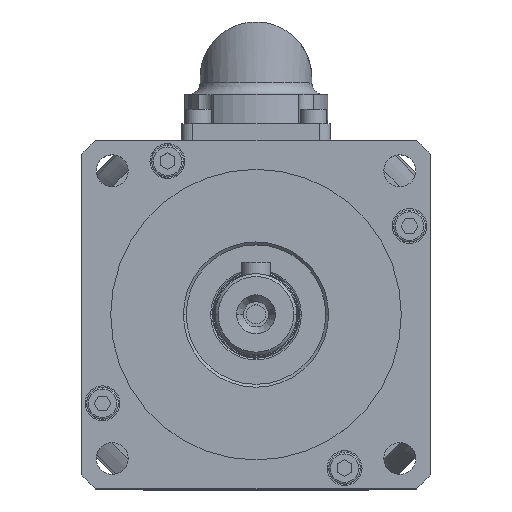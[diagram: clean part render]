
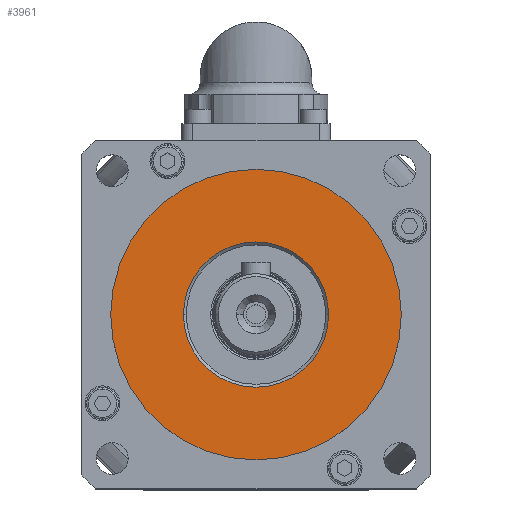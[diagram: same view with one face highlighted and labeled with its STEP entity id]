
A CAD part, top view. The second image highlights one B-rep face of the part: STEP entity #3961.
In plain terms, the highlighted planar face has unit normal (0, 0, 1).
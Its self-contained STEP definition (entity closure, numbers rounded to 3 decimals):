
#247 = CARTESIAN_POINT ( 'NONE',  ( -25., 0., 9.5 ) ) ;
#1337 = DIRECTION ( 'NONE',  ( 0., 0., 1. ) ) ;
#1347 = DIRECTION ( 'NONE',  ( 0., 0., 1. ) ) ;
#1377 = DIRECTION ( 'NONE',  ( 1., 0., 0. ) ) ;
#1399 = CARTESIAN_POINT ( 'NONE',  ( 0., 0., 9.5 ) ) ;
#1409 = DIRECTION ( 'NONE',  ( 1., 0., 0. ) ) ;
#1411 = CARTESIAN_POINT ( 'NONE',  ( 0., 0., 9.5 ) ) ;
#1434 = CARTESIAN_POINT ( 'NONE',  ( 0., 0., 9.5 ) ) ;
#1438 = DIRECTION ( 'NONE',  ( 1., 0., 0. ) ) ;
#1465 = DIRECTION ( 'NONE',  ( 0., 0., -1. ) ) ;
#1806 = CARTESIAN_POINT ( 'NONE',  ( 0., 0., 9.5 ) ) ;
#1807 = PLANE ( 'NONE',  #8956 ) ;
#1823 = DIRECTION ( 'NONE',  ( 1., 0., 0. ) ) ;
#1828 = DIRECTION ( 'NONE',  ( 0., 0., 1. ) ) ;
#2657 = CARTESIAN_POINT ( 'NONE',  ( 12.5, 0., 9.5 ) ) ;
#3065 = VERTEX_POINT ( 'NONE', #247 ) ;
#3146 = VERTEX_POINT ( 'NONE', #4349 ) ;
#3239 = VERTEX_POINT ( 'NONE', #4458 ) ;
#3961 = ADVANCED_FACE ( 'NONE', ( #5279, #5284 ), #1807, .T. ) ;
#4111 = CIRCLE ( 'NONE', #8878, 25. ) ;
#4130 = CIRCLE ( 'NONE', #8881, 25. ) ;
#4132 = CIRCLE ( 'NONE', #8904, 12.5 ) ;
#4349 = CARTESIAN_POINT ( 'NONE',  ( 25., 0., 9.5 ) ) ;
#4458 = CARTESIAN_POINT ( 'NONE',  ( -12.5, 0., 9.5 ) ) ;
#4946 = EDGE_CURVE ( 'NONE', #10372, #3239, #5467, .T. ) ;
#5058 = EDGE_CURVE ( 'NONE', #3146, #3065, #4111, .T. ) ;
#5073 = EDGE_CURVE ( 'NONE', #3065, #3146, #4130, .T. ) ;
#5074 = EDGE_CURVE ( 'NONE', #3239, #10372, #4132, .T. ) ;
#5103 = ORIENTED_EDGE ( 'NONE', *, *, #4946, .T. ) ;
#5104 = ORIENTED_EDGE ( 'NONE', *, *, #5074, .T. ) ;
#5105 = ORIENTED_EDGE ( 'NONE', *, *, #5073, .T. ) ;
#5106 = ORIENTED_EDGE ( 'NONE', *, *, #5058, .T. ) ;
#5279 = FACE_BOUND ( 'NONE', #5958, .T. ) ;
#5284 = FACE_OUTER_BOUND ( 'NONE', #5964, .T. ) ;
#5467 = CIRCLE ( 'NONE', #9022, 12.5 ) ;
#5958 = EDGE_LOOP ( 'NONE', ( #5103, #5104 ) ) ;
#5964 = EDGE_LOOP ( 'NONE', ( #5105, #5106 ) ) ;
#7801 = CARTESIAN_POINT ( 'NONE',  ( 0., 0., 9.5 ) ) ;
#7808 = DIRECTION ( 'NONE',  ( 0., 0., -1. ) ) ;
#7814 = DIRECTION ( 'NONE',  ( 1., 0., 0. ) ) ;
#8878 = AXIS2_PLACEMENT_3D ( 'NONE', #1399, #1337, #1438 ) ;
#8881 = AXIS2_PLACEMENT_3D ( 'NONE', #1434, #1347, #1409 ) ;
#8904 = AXIS2_PLACEMENT_3D ( 'NONE', #1411, #1465, #1377 ) ;
#8956 = AXIS2_PLACEMENT_3D ( 'NONE', #1806, #1828, #1823 ) ;
#9022 = AXIS2_PLACEMENT_3D ( 'NONE', #7801, #7808, #7814 ) ;
#10372 = VERTEX_POINT ( 'NONE', #2657 ) ;
